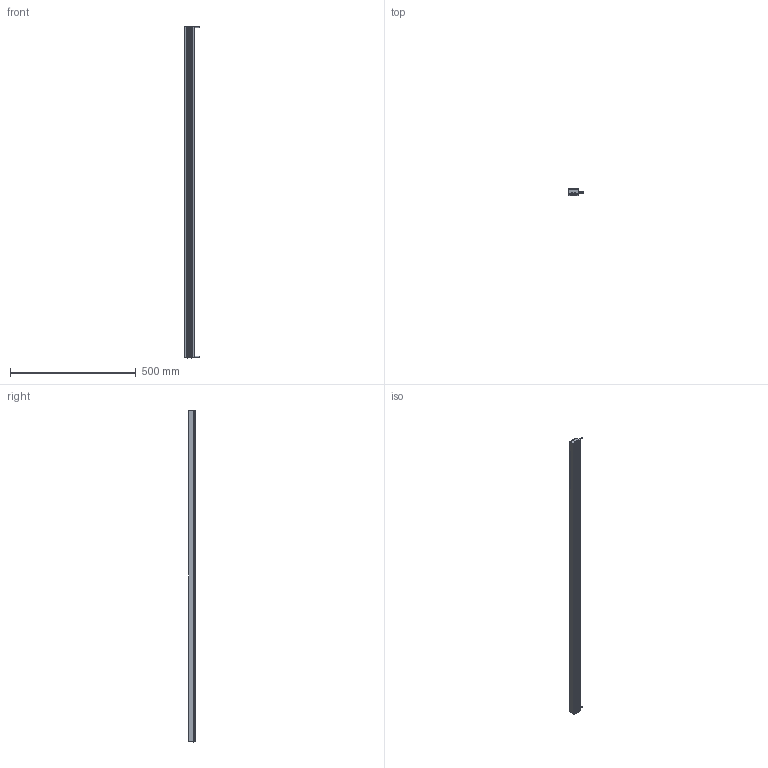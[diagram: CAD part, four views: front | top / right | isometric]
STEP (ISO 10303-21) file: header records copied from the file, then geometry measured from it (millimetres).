
FILE_DESCRIPTION((''),'2;1');
FILE_NAME('P-BL2-1317-38_ASM','2020-06-12T',('Administrator'),(''),'PRO/ENGINEER BY PARAMETRIC TECHNOLOGY CORPORATION, 2010100','PRO/ENGINEER BY PARAMETRIC TECHNOLOGY CORPORATION, 2010100','');
FILE_SCHEMA(('CONFIG_CONTROL_DESIGN'));
Length unit declared in the file: millimetre
Products named in the file (3): BL-6; M3-5; P-BL2-1317-38_ASM
Assembly tree (5 placements, depth 2):
  P-BL2-1317-38_ASM
    BL-6
    M3-5  x4
Bounding box: 58 x 27 x 1321.68 mm (x, y, z)
Volume: 1100803 mm3; surface area: 306882.1 mm2
Topology: 5 solids, 13 shells, 352 faces, 940 edges, 608 vertices
Faces by surface type: plane 224, cylinder 80, cone 16, bspline 16, torus 8, sphere 8
Entity records: 8295 total; most frequent: CARTESIAN_POINT 1662, ORIENTED_EDGE 1364, DIRECTION 1344, EDGE_CURVE 692, VECTOR 516, LINE 516, VERTEX_POINT 452, AXIS2_PLACEMENT_3D 414
